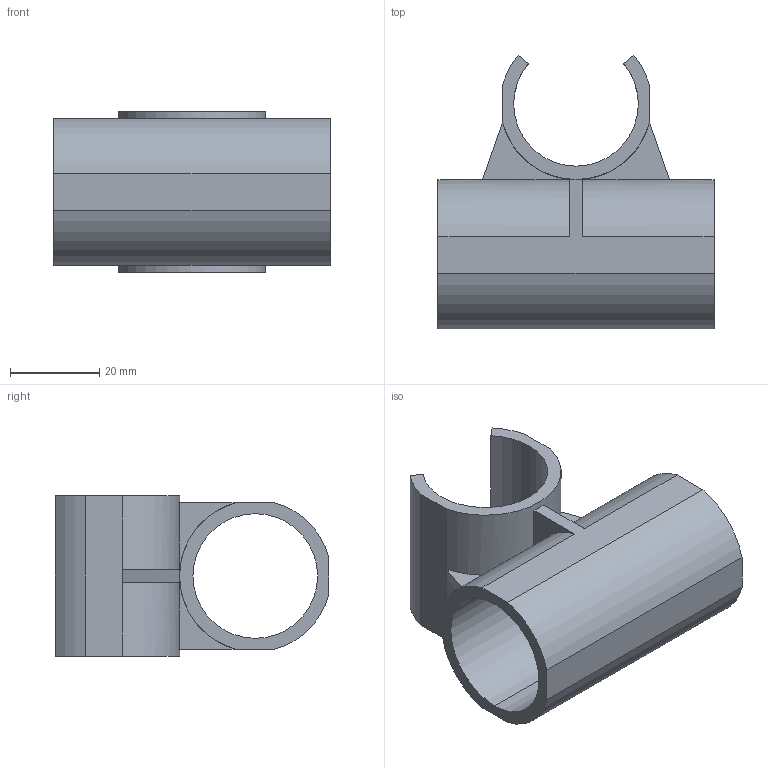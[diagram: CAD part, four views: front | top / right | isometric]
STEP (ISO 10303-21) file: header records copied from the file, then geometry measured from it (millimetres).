
FILE_DESCRIPTION (( 'STEP AP214' ), '1' );
FILE_NAME ('PJ-302B.STEP', '2023-09-12T11:07:31', ( 'catia' ), ( 'HP Inc.' ), 'SwSTEP 2.0', 'SolidWorks 2021', '' );
FILE_SCHEMA (( 'AUTOMOTIVE_DESIGN' ));
Length unit declared in the file: millimetre
Products named in the file (1): PJ-302B
Bounding box: 62 x 61.43 x 36 mm (x, y, z)
Volume: 25841.3 mm3; surface area: 18559.8 mm2
Topology: 1 solids, 1 shells, 34 faces, 92 edges, 60 vertices
Faces by surface type: plane 21, cylinder 13
Entity records: 1114 total; most frequent: CARTESIAN_POINT 193, DIRECTION 192, ORIENTED_EDGE 184, EDGE_CURVE 92, AXIS2_PLACEMENT_3D 67, VERTEX_POINT 60, LINE 58, VECTOR 58
